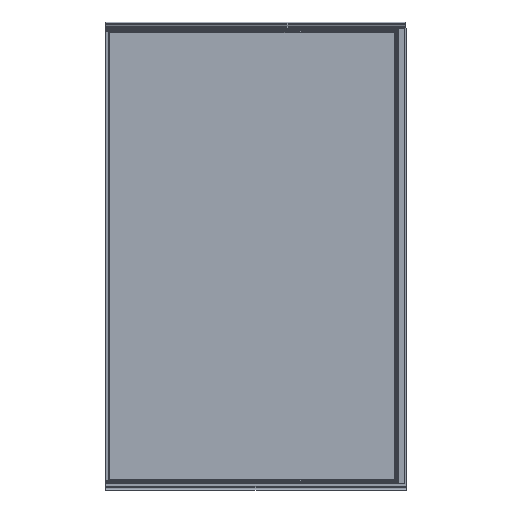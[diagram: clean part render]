
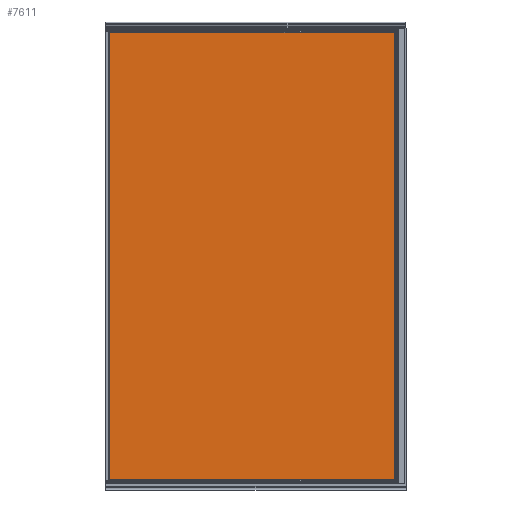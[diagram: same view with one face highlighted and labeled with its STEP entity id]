
A CAD part, front view. The second image highlights one B-rep face of the part: STEP entity #7611.
In plain terms, the highlighted planar face has unit normal (0, -1, 0).
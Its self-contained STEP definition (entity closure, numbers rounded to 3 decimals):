
#185=PLANE('',#8313);
#616=FACE_OUTER_BOUND('',#995,.T.);
#995=EDGE_LOOP('',(#6346,#6347,#6348,#6349));
#1651=LINE('',#12451,#2355);
#1655=LINE('',#12458,#2359);
#1658=LINE('',#12464,#2362);
#1660=LINE('',#12467,#2364);
#2355=VECTOR('',#10251,10.);
#2359=VECTOR('',#10257,10.);
#2362=VECTOR('',#10262,10.);
#2364=VECTOR('',#10266,10.);
#3352=VERTEX_POINT('',#12448);
#3353=VERTEX_POINT('',#12450);
#3355=VERTEX_POINT('',#12456);
#3357=VERTEX_POINT('',#12462);
#4368=EDGE_CURVE('',#3352,#3353,#1651,.T.);
#4372=EDGE_CURVE('',#3355,#3352,#1655,.T.);
#4375=EDGE_CURVE('',#3357,#3355,#1658,.T.);
#4377=EDGE_CURVE('',#3353,#3357,#1660,.T.);
#6346=ORIENTED_EDGE('',*,*,#4377,.F.);
#6347=ORIENTED_EDGE('',*,*,#4368,.F.);
#6348=ORIENTED_EDGE('',*,*,#4372,.F.);
#6349=ORIENTED_EDGE('',*,*,#4375,.F.);
#7611=ADVANCED_FACE('',(#616),#185,.F.);
#8313=AXIS2_PLACEMENT_3D('',#12468,#10267,#10268);
#10251=DIRECTION('',(-1.,0.,0.));
#10257=DIRECTION('',(0.,0.,-1.));
#10262=DIRECTION('',(1.,0.,0.));
#10266=DIRECTION('',(0.,0.,1.));
#10267=DIRECTION('center_axis',(0.,1.,0.));
#10268=DIRECTION('ref_axis',(0.,0.,
1.));
#12448=CARTESIAN_POINT('',(-31.5,9.3,-771.5));
#12450=CARTESIAN_POINT('',(-1024.5,9.3,-771.5));
#12451=CARTESIAN_POINT('',(-31.5,9.3,-771.5));
#12456=CARTESIAN_POINT('',(-31.5,9.3,771.5));
#12458=CARTESIAN_POINT('',(-31.5,9.3,771.5));
#12462=CARTESIAN_POINT('',(-1024.5,9.3,771.5));
#12464=CARTESIAN_POINT('',(-1024.5,9.3,771.5));
#12467=CARTESIAN_POINT('',(-1024.5,9.3,-771.5));
#12468=CARTESIAN_POINT('Origin',(-528.,9.3,0.));
